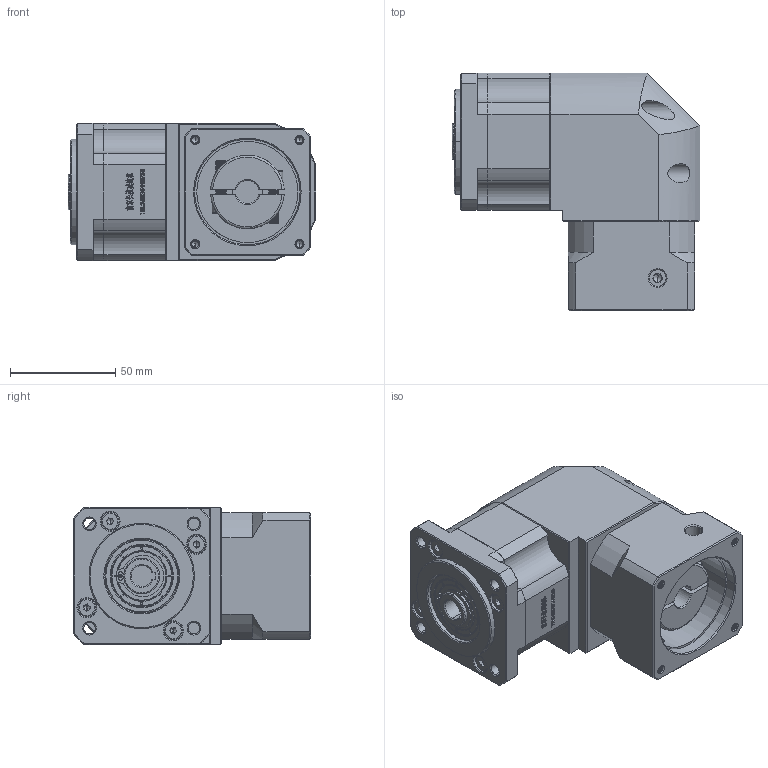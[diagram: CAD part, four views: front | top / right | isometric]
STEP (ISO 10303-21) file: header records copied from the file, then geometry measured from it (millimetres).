
FILE_DESCRIPTION (( 'STEP AP214' ), '1' );
FILE_NAME ('ZBR60-K10-L1-11-50-70-M4.STEP', '2022-04-19T08:23:22', ( '' ), ( 'Microsoft' ), 'SwSTEP 2.0', 'SolidWorks 2016', '' );
FILE_SCHEMA (( 'AUTOMOTIVE_DESIGN' ));
Length unit declared in the file: millimetre
Products named in the file (1): ZBR60-K10-L1-11-50-70-M4
Bounding box: 117.5 x 112.7 x 65 mm (x, y, z)
Volume: 519426.2 mm3; surface area: 76485.6 mm2
Topology: 5 solids, 5 shells, 2782 faces, 7543 edges, 4900 vertices
Faces by surface type: plane 1469, bspline 572, cylinder 385, cone 324, torus 32
Entity records: 146877 total; most frequent: CARTESIAN_POINT 50164, ORIENTED_EDGE 15030, DIRECTION 11545, EDGE_CURVE 7515, VECTOR 4987, LINE 4987, VERTEX_POINT 4900, AXIS2_PLACEMENT_3D 3279
